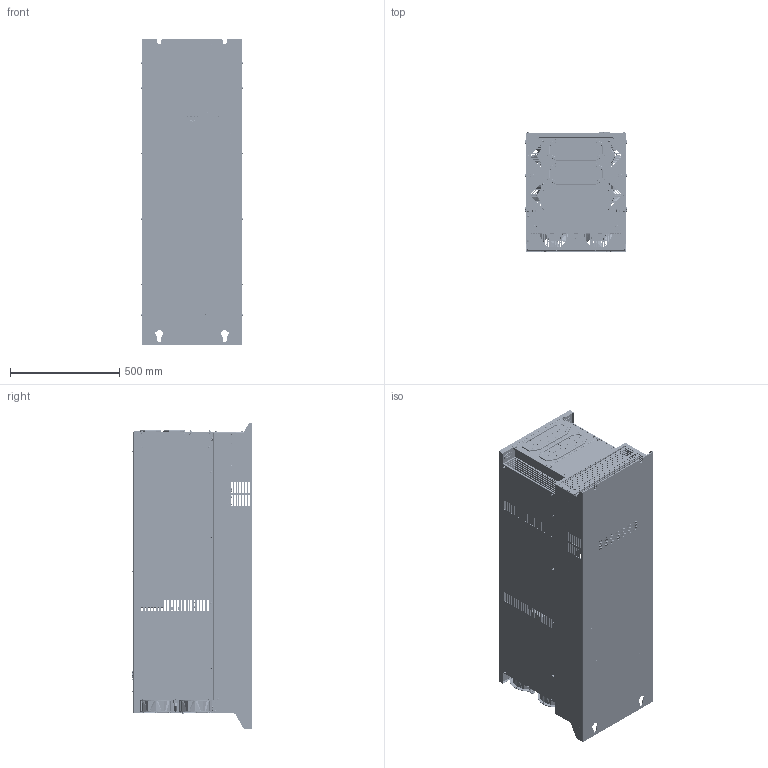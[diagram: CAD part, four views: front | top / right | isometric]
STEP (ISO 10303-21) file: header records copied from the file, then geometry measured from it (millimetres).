
FILE_DESCRIPTION(/* description */ (''),/* implementation_level */ '2;1');
FILE_NAME(/* name */ 'C:\Users\U390257\OneDrive - Danfoss\Documents\Работа\Текущие задачи\2022.04.26 Veichi 3D\Готовые модели\ac300-t3-450_560-3D\ac300-t3-450_560-3D.stp',/* time_stamp */ '2022-04-28T14:04:21+03:00',/* author */ ('U390257'),/* organization */ (''),/* preprocessor_version */ 'ST-DEVELOPER v18.1',/* originating_system */ 'Autodesk Inventor 2020',/* authorisation */ '');
FILE_SCHEMA (('AUTOMOTIVE_DESIGN { 1 0 10303 214 3 1 1 }'));
Products named in the file (38): ac300-t3-450_560-3D; AC300-T3-560G-D_ASM; AC300-T3-560G-C_ASM; AC300-T3-560G-P_ASM; AC300-T3-560G-P001_ASM; ASM0001_ASM; AC300-T3-560G-P034_ASM; AC300-T3-560G-P035_ASM; AC300-T3-560G-S_ASM; M8_GB97_1; M8_GB93_87; M8_GB6170; M6_20X35; M6_GB97_1; M6_GB93_87; M6_GB6170; M4X10_GB819_1; M8X20_GB9074_13; M6X20_GB9074_8; M6X14_GB9074_8; M3X8_GB9074_8; M16_GB97_1; M16_GB93_87; M16X40_GB5783; M4X60_GB9074_8; M4X50_GB9074_8; M5X12_GB9074_8; M5X12_GB9074_13; M4X10_GB9074_8; VEDAVFD; koleso_display; display_2; knopka_pusk; knopka_stop; knopka_prg2; knopka_jog_rev; tablichka3_gc_v_a; gc_v_a
Assembly tree (441 placements, depth 3):
  ac300-t3-450_560-3D
    AC300-T3-560G-D_ASM
    AC300-T3-560G-C_ASM
    AC300-T3-560G-P_ASM
      AC300-T3-560G-P001_ASM
      ASM0001_ASM
      AC300-T3-560G-P034_ASM
      AC300-T3-560G-P035_ASM
    AC300-T3-560G-S_ASM
      M8_GB97_1  x4
      M8_GB93_87  x4
      M8_GB6170  x4
      M5X12_GB9074_8  x122
      M4X10_GB9074_8  x42
      M8X20_GB9074_13  x57
      M6_20X35
      M3X8_GB9074_8  x35
      M6_GB97_1  x8
      M6_GB93_87  x8
      M6_GB6170  x8
      M4X10_GB819_1  x12
      M6X20_GB9074_8  x24
      M6X14_GB9074_8  x16
      M16_GB97_1  x8
      M16_GB93_87  x8
      M16X40_GB5783  x8
      M4X60_GB9074_8  x24
      M4X50_GB9074_8  x4
      M5X12_GB9074_13  x27
    VEDAVFD
    koleso_display
    display_2
      knopka_pusk
      knopka_stop
      knopka_prg2
      knopka_jog_rev
    tablichka3_gc_v_a
      gc_v_a
Bounding box: 469.8 x 553.37 x 1400 mm (x, y, z)
Topology: 1157 solids, 1623 shells, 48747 faces, 127546 edges, 83109 vertices
Faces by surface type: plane 36566, cylinder 6879, bspline 2550, cone 1585, torus 722, sphere 445
Full cylindrical faces by diameter (mm): 0.5 x8, 0.8 x32, 0.9 x8, 1 x19, 1.08 x1, 1.2 x2, 1.5 x4, 1.6 x2, 1.625 x2, 1.8 x8, 2 x50, 2.2 x36, 2.5 x94, 2.6 x4, 2.65 x12, 3 x46, 3.2 x1, 3.25 x92, 3.3 x3, 3.5 x71, 3.8 x20, 4 x240, 4.1 x72, 4.2 x269, 4.3 x20, 4.39 x17, 4.5 x224, 4.72 x5, 4.917 x16, 4.99 x34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
Entity records: 1278834 total; most frequent: CARTESIAN_POINT 308272, ORIENTED_EDGE 201828, DIRECTION 190210, EDGE_CURVE 100935, LINE 75838, VECTOR 75838, VERTEX_POINT 65039, AXIS2_PLACEMENT_3D 57186
